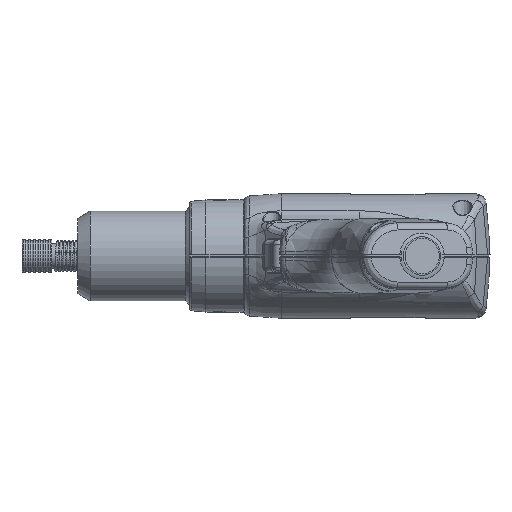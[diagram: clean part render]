
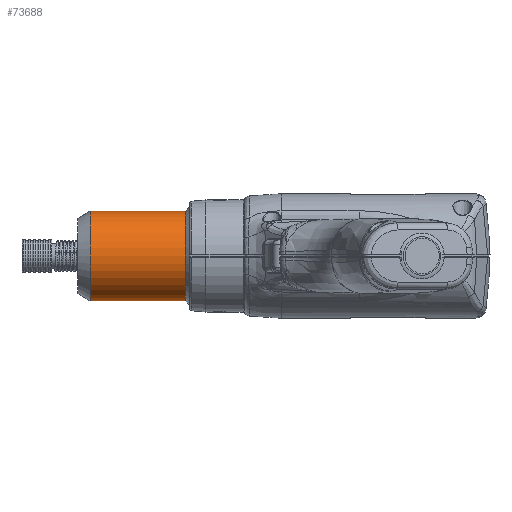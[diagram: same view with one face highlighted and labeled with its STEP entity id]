
A CAD part, front view. The second image highlights one B-rep face of the part: STEP entity #73688.
In plain terms, the highlighted cylindrical face has radius 18 mm (diameter 36 mm), a full revolution.
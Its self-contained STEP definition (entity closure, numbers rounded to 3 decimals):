
#2997 = CYLINDRICAL_SURFACE ( 'NONE', #57239, 18. ) ;
#5272 = EDGE_CURVE ( 'NONE', #42608, #42608, #26169, .T. ) ;
#6822 = CARTESIAN_POINT ( 'NONE',  ( -37., 0., -18. ) ) ;
#7629 = AXIS2_PLACEMENT_3D ( 'NONE', #41469, #7730, #63508 ) ;
#7730 = DIRECTION ( 'NONE',  ( 1., 0., 0. ) ) ;
#8049 = ORIENTED_EDGE ( 'NONE', *, *, #5272, .F. ) ;
#11764 = CIRCLE ( 'NONE', #75498, 18. ) ;
#15992 = CARTESIAN_POINT ( 'NONE',  ( 1.2, 0., -18. ) ) ;
#23518 = EDGE_LOOP ( 'NONE', ( #54065 ) ) ;
#26169 = CIRCLE ( 'NONE', #7629, 18. ) ;
#26401 = EDGE_CURVE ( 'NONE', #67616, #67616, #11764, .T. ) ;
#29161 = DIRECTION ( 'NONE',  ( 0., 0., -1. ) ) ;
#33167 = DIRECTION ( 'NONE',  ( 0., 0., -1. ) ) ;
#36715 = FACE_OUTER_BOUND ( 'NONE', #23518, .T. ) ;
#38452 = CARTESIAN_POINT ( 'NONE',  ( 28., 0., 0. ) ) ;
#41469 = CARTESIAN_POINT ( 'NONE',  ( 1.2, 0., 0. ) ) ;
#42608 = VERTEX_POINT ( 'NONE', #15992 ) ;
#43788 = FACE_OUTER_BOUND ( 'NONE', #44747, .T. ) ;
#44747 = EDGE_LOOP ( 'NONE', ( #8049 ) ) ;
#52485 = CARTESIAN_POINT ( 'NONE',  ( -37., 0., 0. ) ) ;
#54065 = ORIENTED_EDGE ( 'NONE', *, *, #26401, .T. ) ;
#57239 = AXIS2_PLACEMENT_3D ( 'NONE', #38452, #87212, #33167 ) ;
#63508 = DIRECTION ( 'NONE',  ( 0., 0., -1. ) ) ;
#67616 = VERTEX_POINT ( 'NONE', #6822 ) ;
#73688 = ADVANCED_FACE ( 'NONE', ( #43788, #36715 ), #2997, .T. ) ;
#75498 = AXIS2_PLACEMENT_3D ( 'NONE', #52485, #79489, #29161 ) ;
#79489 = DIRECTION ( 'NONE',  ( 1., 0., 0. ) ) ;
#87212 = DIRECTION ( 'NONE',  ( 1., 0., 0. ) ) ;
